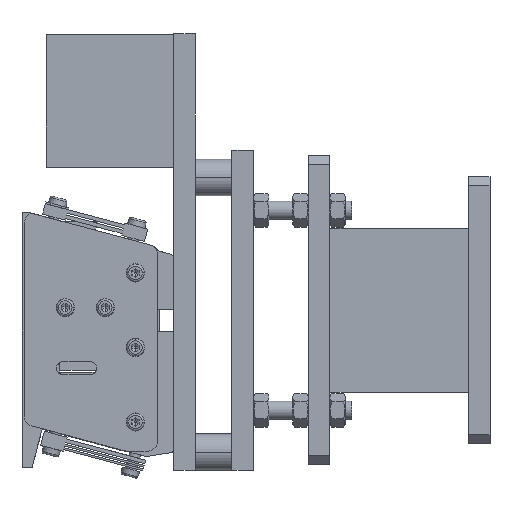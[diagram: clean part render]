
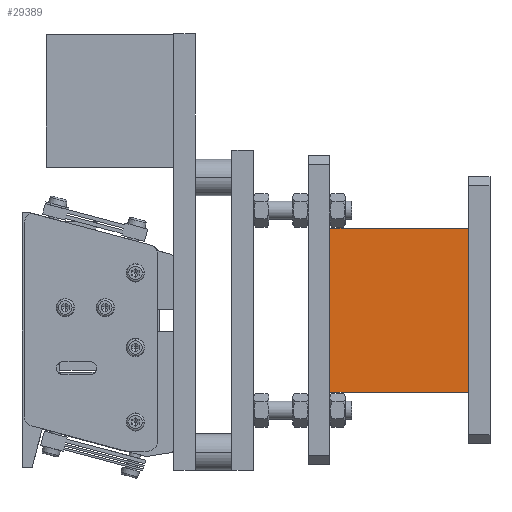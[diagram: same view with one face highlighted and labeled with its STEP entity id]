
A CAD part, left-side view. The second image highlights one B-rep face of the part: STEP entity #29389.
In plain terms, the highlighted planar face has unit normal (-1, 0, 0).
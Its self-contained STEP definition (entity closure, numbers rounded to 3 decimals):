
#581 = CARTESIAN_POINT ( 'NONE',  ( 36.137, 78.12, -46.292 ) ) ;
#997 = LINE ( 'NONE', #24030, #5327 ) ;
#2147 = PLANE ( 'NONE',  #26617 ) ;
#2202 = VERTEX_POINT ( 'NONE', #7181 ) ;
#2273 = VECTOR ( 'NONE', #7206, 1000. ) ;
#2826 = LINE ( 'NONE', #10055, #24931 ) ;
#4424 = DIRECTION ( 'NONE',  ( 0., 0., -1. ) ) ;
#4922 = ORIENTED_EDGE ( 'NONE', *, *, #24946, .F. ) ;
#5327 = VECTOR ( 'NONE', #5511, 1000. ) ;
#5511 = DIRECTION ( 'NONE',  ( 0., 0., -1. ) ) ;
#5668 = VERTEX_POINT ( 'NONE', #581 ) ;
#6030 = EDGE_CURVE ( 'NONE', #25255, #2202, #997, .T. ) ;
#6164 = LINE ( 'NONE', #8587, #26678 ) ;
#7181 = CARTESIAN_POINT ( 'NONE',  ( 36.137, 2.12, -136.292 ) ) ;
#7206 = DIRECTION ( 'NONE',  ( 0., 1., 0. ) ) ;
#8062 = CARTESIAN_POINT ( 'NONE',  ( 36.137, 78.12, -136.292 ) ) ;
#8587 = CARTESIAN_POINT ( 'NONE',  ( 36.137, 78.12, -223.515 ) ) ;
#9168 = EDGE_CURVE ( 'NONE', #10471, #5668, #6164, .T. ) ;
#10055 = CARTESIAN_POINT ( 'NONE',  ( 36.137, 2.12, -46.292 ) ) ;
#10471 = VERTEX_POINT ( 'NONE', #8062 ) ;
#11222 = FACE_OUTER_BOUND ( 'NONE', #24277, .T. ) ;
#13308 = DIRECTION ( 'NONE',  ( 1., 0., 0. ) ) ;
#13670 = CARTESIAN_POINT ( 'NONE',  ( 36.137, 2.12, -46.292 ) ) ;
#15712 = EDGE_CURVE ( 'NONE', #2202, #10471, #23148, .T. ) ;
#16211 = CARTESIAN_POINT ( 'NONE',  ( 36.137, 2.12, -136.292 ) ) ;
#19085 = DIRECTION ( 'NONE',  ( 0., -1., 0. ) ) ;
#20059 = ORIENTED_EDGE ( 'NONE', *, *, #9168, .F. ) ;
#21680 = DIRECTION ( 'NONE',  ( 0., 0., 1. ) ) ;
#23148 = LINE ( 'NONE', #16211, #2273 ) ;
#24030 = CARTESIAN_POINT ( 'NONE',  ( 36.137, 2.12, -41.292 ) ) ;
#24277 = EDGE_LOOP ( 'NONE', ( #28556, #4922, #20059, #27274 ) ) ;
#24931 = VECTOR ( 'NONE', #19085, 1000. ) ;
#24946 = EDGE_CURVE ( 'NONE', #5668, #25255, #2826, .T. ) ;
#25255 = VERTEX_POINT ( 'NONE', #13670 ) ;
#26617 = AXIS2_PLACEMENT_3D ( 'NONE', #29718, #13308, #4424 ) ;
#26678 = VECTOR ( 'NONE', #21680, 1000. ) ;
#27274 = ORIENTED_EDGE ( 'NONE', *, *, #15712, .F. ) ;
#28556 = ORIENTED_EDGE ( 'NONE', *, *, #6030, .F. ) ;
#29389 = ADVANCED_FACE ( 'NONE', ( #11222 ), #2147, .F. ) ;
#29718 = CARTESIAN_POINT ( 'NONE',  ( 36.137, 2.12, -41.292 ) ) ;
